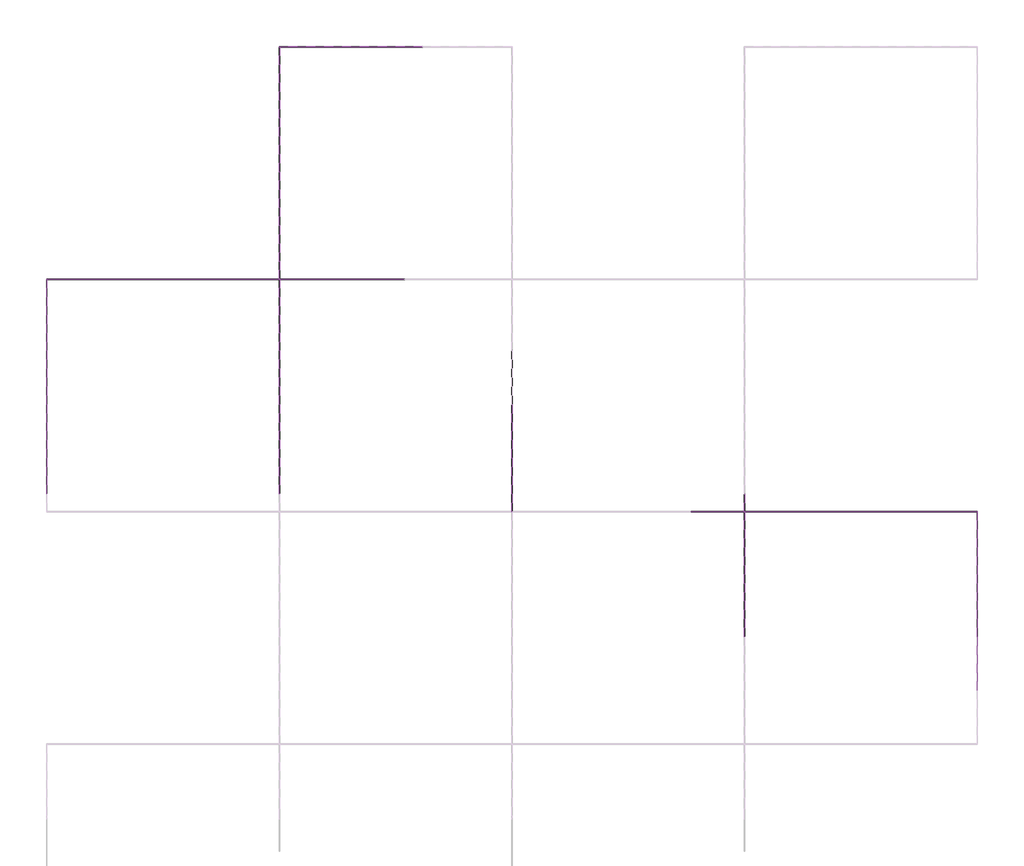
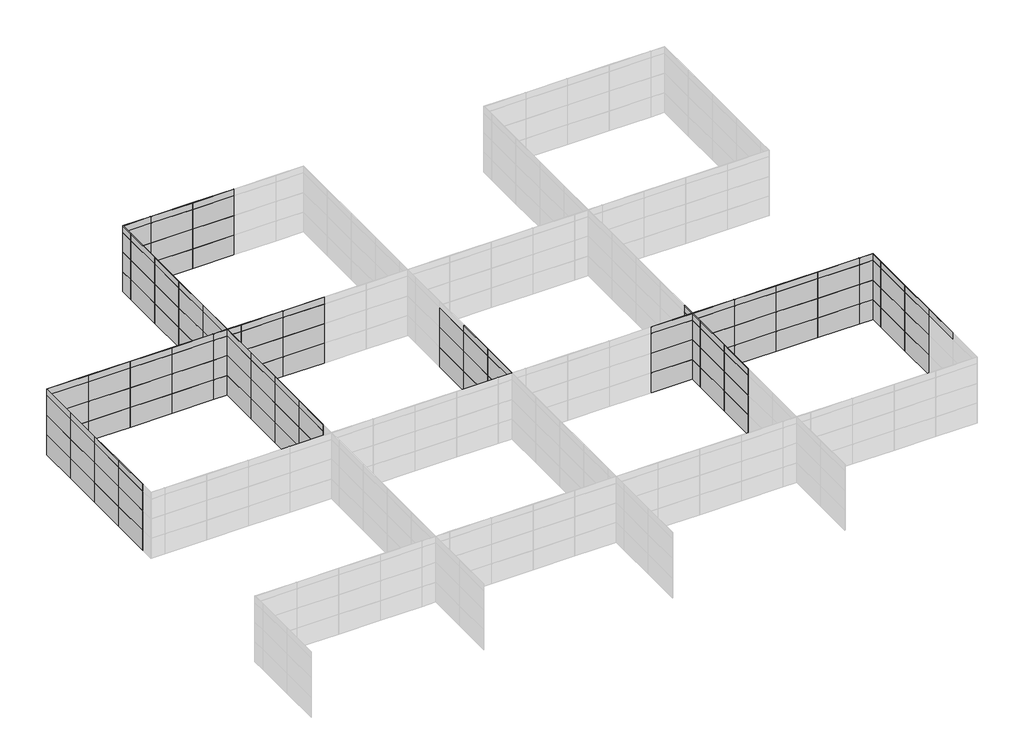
# One storey, part 3 of 4: 160 plates.
"""IFC4 building model written with IfcOpenShell, lengths in millimetres."""

from ifc_helpers import new_model, si_unit, origin, place, context, project, spatial, transform, mapped, element, save
from components import plate_b491c4e8, plate_da1865bf, plate_ce02e459, plate_7b5d22a9, plate_a38b8537, plate_752961ee

model = new_model("IFC4")

# Units and contexts
model_context = context("Model", 3, world=origin())
ifc_project = project(units=[si_unit("LENGTHUNIT", "METRE", prefix="MILLI")], contexts=[model_context])

# Site, building, storey
site = spatial("IfcSite", under=ifc_project)
building = spatial("IfcBuilding", under=site)
storey = spatial("IfcBuildingStorey", under=building, Name="标高 4", Elevation=15000.0)

# Plates
placement = place(None, origin())
plate_shape = plate_b491c4e8(model_context)
element("IfcPlate", 1, ObjectType="系统嵌板 : 玻璃", at=placement, inside=storey, context=model_context, shape_type="MappedRepresentation", body=[
    mapped(plate_shape, transform((30694.7947586, -3748.6313563, 15000.0), x_axis=(0.0, -1.0, 0.0), y_axis=(1.0, 0.0, 0.0), z_axis=(0.0, 0.0, 1.0))),
])
element("IfcPlate", 2, ObjectType="系统嵌板 : 玻璃", at=placement, inside=storey, context=model_context, shape_type="MappedRepresentation", body=[
    mapped(plate_shape, transform((30694.7947586, -6748.6313563, 15000.0), x_axis=(0.0, -1.0, 0.0), y_axis=(1.0, 0.0, 0.0), z_axis=(0.0, 0.0, 1.0))),
])
element("IfcPlate", 3, ObjectType="系统嵌板 : 玻璃", at=placement, inside=storey, context=model_context, shape_type="MappedRepresentation", body=[
    mapped(plate_shape, transform((30694.7947586, -3748.6313563, 16500.0), x_axis=(0.0, -1.0, 0.0), y_axis=(1.0, 0.0, 0.0), z_axis=(0.0, 0.0, 1.0))),
])
element("IfcPlate", 4, ObjectType="系统嵌板 : 玻璃", at=placement, inside=storey, context=model_context, shape_type="MappedRepresentation", body=[
    mapped(plate_shape, transform((30694.7947586, -6748.6313563, 16500.0), x_axis=(0.0, -1.0, 0.0), y_axis=(1.0, 0.0, 0.0), z_axis=(0.0, 0.0, 1.0))),
])
element("IfcPlate", 5, ObjectType="系统嵌板 : 玻璃", at=placement, inside=storey, context=model_context, shape_type="MappedRepresentation", body=[
    mapped(plate_shape, transform((30694.7947586, -3748.6313563, 18000.0), x_axis=(0.0, -1.0, 0.0), y_axis=(1.0, 0.0, 0.0), z_axis=(0.0, 0.0, 1.0))),
])
element("IfcPlate", 6, ObjectType="系统嵌板 : 玻璃", at=placement, inside=storey, context=model_context, shape_type="MappedRepresentation", body=[
    mapped(plate_shape, transform((30694.7947586, -6748.6313563, 18000.0), x_axis=(0.0, -1.0, 0.0), y_axis=(1.0, 0.0, 0.0), z_axis=(0.0, 0.0, 1.0))),
])
element("IfcPlate", 7, ObjectType="系统嵌板 : 玻璃", at=placement, inside=storey, context=model_context, shape_type="MappedRepresentation", body=[
    mapped(plate_shape, transform((-4805.2052414, 24751.3686437, 15000.0), x_axis=(1.0, 0.0, 0.0), y_axis=(0.0, 1.0, 0.0), z_axis=(0.0, 0.0, 1.0))),
])
element("IfcPlate", 8, ObjectType="系统嵌板 : 玻璃", at=placement, inside=storey, context=model_context, shape_type="MappedRepresentation", body=[
    mapped(plate_shape, transform((-1805.2052414, 24751.3686437, 15000.0), x_axis=(1.0, 0.0, 0.0), y_axis=(0.0, 1.0, 0.0), z_axis=(0.0, 0.0, 1.0))),
])
element("IfcPlate", 9, ObjectType="系统嵌板 : 玻璃", at=placement, inside=storey, context=model_context, shape_type="MappedRepresentation", body=[
    mapped(plate_shape, transform((-4805.2052414, 24751.3686437, 16500.0), x_axis=(1.0, 0.0, 0.0), y_axis=(0.0, 1.0, 0.0), z_axis=(0.0, 0.0, 1.0))),
])
element("IfcPlate", 10, ObjectType="系统嵌板 : 玻璃", at=placement, inside=storey, context=model_context, shape_type="MappedRepresentation", body=[
    mapped(plate_shape, transform((-1805.2052414, 24751.3686437, 16500.0), x_axis=(1.0, 0.0, 0.0), y_axis=(0.0, 1.0, 0.0), z_axis=(0.0, 0.0, 1.0))),
])
element("IfcPlate", 11, ObjectType="系统嵌板 : 玻璃", at=placement, inside=storey, context=model_context, shape_type="MappedRepresentation", body=[
    mapped(plate_shape, transform((-4805.2052414, 24751.3686437, 18000.0), x_axis=(1.0, 0.0, 0.0), y_axis=(0.0, 1.0, 0.0), z_axis=(0.0, 0.0, 1.0))),
])
element("IfcPlate", 12, ObjectType="系统嵌板 : 玻璃", at=placement, inside=storey, context=model_context, shape_type="MappedRepresentation", body=[
    mapped(plate_shape, transform((-1805.2052414, 24751.3686437, 18000.0), x_axis=(1.0, 0.0, 0.0), y_axis=(0.0, 1.0, 0.0), z_axis=(0.0, 0.0, 1.0))),
])
element("IfcPlate", 13, ObjectType="系统嵌板 : 玻璃", at=placement, inside=storey, context=model_context, shape_type="MappedRepresentation", body=[
    mapped(plate_shape, transform((-21305.2052414, 1251.3686437, 15000.0), x_axis=(0.0, 1.0, 0.0), y_axis=(-1.0, 0.0, 0.0), z_axis=(0.0, 0.0, 1.0))),
])
element("IfcPlate", 14, ObjectType="系统嵌板 : 玻璃", at=placement, inside=storey, context=model_context, shape_type="MappedRepresentation", body=[
    mapped(plate_shape, transform((-21305.2052414, 4251.3686437, 15000.0), x_axis=(0.0, 1.0, 0.0), y_axis=(-1.0, 0.0, 0.0), z_axis=(0.0, 0.0, 1.0))),
])
element("IfcPlate", 15, ObjectType="系统嵌板 : 玻璃", at=placement, inside=storey, context=model_context, shape_type="MappedRepresentation", body=[
    mapped(plate_shape, transform((-21305.2052414, 7251.3686437, 15000.0), x_axis=(0.0, 1.0, 0.0), y_axis=(-1.0, 0.0, 0.0), z_axis=(0.0, 0.0, 1.0))),
])
element("IfcPlate", 16, ObjectType="系统嵌板 : 玻璃", at=placement, inside=storey, context=model_context, shape_type="MappedRepresentation", body=[
    mapped(plate_shape, transform((-21305.2052414, 10251.3686437, 15000.0), x_axis=(0.0, 1.0, 0.0), y_axis=(-1.0, 0.0, 0.0), z_axis=(0.0, 0.0, 1.0))),
])
element("IfcPlate", 17, ObjectType="系统嵌板 : 玻璃", at=placement, inside=storey, context=model_context, shape_type="MappedRepresentation", body=[
    mapped(plate_shape, transform((-21305.2052414, 1251.3686437, 16500.0), x_axis=(0.0, 1.0, 0.0), y_axis=(-1.0, 0.0, 0.0), z_axis=(0.0, 0.0, 1.0))),
])
element("IfcPlate", 18, ObjectType="系统嵌板 : 玻璃", at=placement, inside=storey, context=model_context, shape_type="MappedRepresentation", body=[
    mapped(plate_shape, transform((-21305.2052414, 4251.3686437, 16500.0), x_axis=(0.0, 1.0, 0.0), y_axis=(-1.0, 0.0, 0.0), z_axis=(0.0, 0.0, 1.0))),
])
element("IfcPlate", 19, ObjectType="系统嵌板 : 玻璃", at=placement, inside=storey, context=model_context, shape_type="MappedRepresentation", body=[
    mapped(plate_shape, transform((-21305.2052414, 7251.3686437, 16500.0), x_axis=(0.0, 1.0, 0.0), y_axis=(-1.0, 0.0, 0.0), z_axis=(0.0, 0.0, 1.0))),
])
element("IfcPlate", 20, ObjectType="系统嵌板 : 玻璃", at=placement, inside=storey, context=model_context, shape_type="MappedRepresentation", body=[
    mapped(plate_shape, transform((-21305.2052414, 10251.3686437, 16500.0), x_axis=(0.0, 1.0, 0.0), y_axis=(-1.0, 0.0, 0.0), z_axis=(0.0, 0.0, 1.0))),
])
element("IfcPlate", 21, ObjectType="系统嵌板 : 玻璃", at=placement, inside=storey, context=model_context, shape_type="MappedRepresentation", body=[
    mapped(plate_shape, transform((-21305.2052414, 1251.3686437, 18000.0), x_axis=(0.0, 1.0, 0.0), y_axis=(-1.0, 0.0, 0.0), z_axis=(0.0, 0.0, 1.0))),
])
element("IfcPlate", 22, ObjectType="系统嵌板 : 玻璃", at=placement, inside=storey, context=model_context, shape_type="MappedRepresentation", body=[
    mapped(plate_shape, transform((-21305.2052414, 4251.3686437, 18000.0), x_axis=(0.0, 1.0, 0.0), y_axis=(-1.0, 0.0, 0.0), z_axis=(0.0, 0.0, 1.0))),
])
element("IfcPlate", 23, ObjectType="系统嵌板 : 玻璃", at=placement, inside=storey, context=model_context, shape_type="MappedRepresentation", body=[
    mapped(plate_shape, transform((-21305.2052414, 7251.3686437, 18000.0), x_axis=(0.0, 1.0, 0.0), y_axis=(-1.0, 0.0, 0.0), z_axis=(0.0, 0.0, 1.0))),
])
element("IfcPlate", 24, ObjectType="系统嵌板 : 玻璃", at=placement, inside=storey, context=model_context, shape_type="MappedRepresentation", body=[
    mapped(plate_shape, transform((-21305.2052414, 10251.3686437, 18000.0), x_axis=(0.0, 1.0, 0.0), y_axis=(-1.0, 0.0, 0.0), z_axis=(0.0, 0.0, 1.0))),
])
element("IfcPlate", 25, ObjectType="系统嵌板 : 玻璃", at=placement, inside=storey, context=model_context, shape_type="MappedRepresentation", body=[
    mapped(plate_shape, transform((-19805.2052414, 11751.3686437, 15000.0), x_axis=(1.0, 0.0, 0.0), y_axis=(0.0, 1.0, 0.0), z_axis=(0.0, 0.0, 1.0))),
])
element("IfcPlate", 26, ObjectType="系统嵌板 : 玻璃", at=placement, inside=storey, context=model_context, shape_type="MappedRepresentation", body=[
    mapped(plate_shape, transform((-16805.2052414, 11751.3686437, 15000.0), x_axis=(1.0, 0.0, 0.0), y_axis=(0.0, 1.0, 0.0), z_axis=(0.0, 0.0, 1.0))),
])
element("IfcPlate", 27, ObjectType="系统嵌板 : 玻璃", at=placement, inside=storey, context=model_context, shape_type="MappedRepresentation", body=[
    mapped(plate_shape, transform((-13805.2052414, 11751.3686437, 15000.0), x_axis=(1.0, 0.0, 0.0), y_axis=(0.0, 1.0, 0.0), z_axis=(0.0, 0.0, 1.0))),
])
element("IfcPlate", 28, ObjectType="系统嵌板 : 玻璃", at=placement, inside=storey, context=model_context, shape_type="MappedRepresentation", body=[
    mapped(plate_shape, transform((-10805.2052414, 11751.3686437, 15000.0), x_axis=(1.0, 0.0, 0.0), y_axis=(0.0, 1.0, 0.0), z_axis=(0.0, 0.0, 1.0))),
])
element("IfcPlate", 29, ObjectType="系统嵌板 : 玻璃", at=placement, inside=storey, context=model_context, shape_type="MappedRepresentation", body=[
    mapped(plate_shape, transform((-19805.2052414, 11751.3686437, 16500.0), x_axis=(1.0, 0.0, 0.0), y_axis=(0.0, 1.0, 0.0), z_axis=(0.0, 0.0, 1.0))),
])
element("IfcPlate", 30, ObjectType="系统嵌板 : 玻璃", at=placement, inside=storey, context=model_context, shape_type="MappedRepresentation", body=[
    mapped(plate_shape, transform((-16805.2052414, 11751.3686437, 16500.0), x_axis=(1.0, 0.0, 0.0), y_axis=(0.0, 1.0, 0.0), z_axis=(0.0, 0.0, 1.0))),
])
element("IfcPlate", 31, ObjectType="系统嵌板 : 玻璃", at=placement, inside=storey, context=model_context, shape_type="MappedRepresentation", body=[
    mapped(plate_shape, transform((-13805.2052414, 11751.3686437, 16500.0), x_axis=(1.0, 0.0, 0.0), y_axis=(0.0, 1.0, 0.0), z_axis=(0.0, 0.0, 1.0))),
])
element("IfcPlate", 32, ObjectType="系统嵌板 : 玻璃", at=placement, inside=storey, context=model_context, shape_type="MappedRepresentation", body=[
    mapped(plate_shape, transform((-10805.2052414, 11751.3686437, 16500.0), x_axis=(1.0, 0.0, 0.0), y_axis=(0.0, 1.0, 0.0), z_axis=(0.0, 0.0, 1.0))),
])
element("IfcPlate", 33, ObjectType="系统嵌板 : 玻璃", at=placement, inside=storey, context=model_context, shape_type="MappedRepresentation", body=[
    mapped(plate_shape, transform((-19805.2052414, 11751.3686437, 18000.0), x_axis=(1.0, 0.0, 0.0), y_axis=(0.0, 1.0, 0.0), z_axis=(0.0, 0.0, 1.0))),
])
element("IfcPlate", 34, ObjectType="系统嵌板 : 玻璃", at=placement, inside=storey, context=model_context, shape_type="MappedRepresentation", body=[
    mapped(plate_shape, transform((-16805.2052414, 11751.3686437, 18000.0), x_axis=(1.0, 0.0, 0.0), y_axis=(0.0, 1.0, 0.0), z_axis=(0.0, 0.0, 1.0))),
])
element("IfcPlate", 35, ObjectType="系统嵌板 : 玻璃", at=placement, inside=storey, context=model_context, shape_type="MappedRepresentation", body=[
    mapped(plate_shape, transform((-13805.2052414, 11751.3686437, 18000.0), x_axis=(1.0, 0.0, 0.0), y_axis=(0.0, 1.0, 0.0), z_axis=(0.0, 0.0, 1.0))),
])
element("IfcPlate", 36, ObjectType="系统嵌板 : 玻璃", at=placement, inside=storey, context=model_context, shape_type="MappedRepresentation", body=[
    mapped(plate_shape, transform((-10805.2052414, 11751.3686437, 18000.0), x_axis=(1.0, 0.0, 0.0), y_axis=(0.0, 1.0, 0.0), z_axis=(0.0, 0.0, 1.0))),
])
element("IfcPlate", 37, ObjectType="系统嵌板 : 玻璃", at=placement, inside=storey, context=model_context, shape_type="MappedRepresentation", body=[
    mapped(plate_shape, transform((-8305.2052414, 13251.3686437, 15000.0), x_axis=(0.0, 1.0, 0.0), y_axis=(-1.0, 0.0, 0.0), z_axis=(0.0, 0.0, 1.0))),
])
element("IfcPlate", 38, ObjectType="系统嵌板 : 玻璃", at=placement, inside=storey, context=model_context, shape_type="MappedRepresentation", body=[
    mapped(plate_shape, transform((-8305.2052414, 16251.3686437, 15000.0), x_axis=(0.0, 1.0, 0.0), y_axis=(-1.0, 0.0, 0.0), z_axis=(0.0, 0.0, 1.0))),
])
element("IfcPlate", 39, ObjectType="系统嵌板 : 玻璃", at=placement, inside=storey, context=model_context, shape_type="MappedRepresentation", body=[
    mapped(plate_shape, transform((-8305.2052414, 19251.3686437, 15000.0), x_axis=(0.0, 1.0, 0.0), y_axis=(-1.0, 0.0, 0.0), z_axis=(0.0, 0.0, 1.0))),
])
element("IfcPlate", 40, ObjectType="系统嵌板 : 玻璃", at=placement, inside=storey, context=model_context, shape_type="MappedRepresentation", body=[
    mapped(plate_shape, transform((-8305.2052414, 22251.3686437, 15000.0), x_axis=(0.0, 1.0, 0.0), y_axis=(-1.0, 0.0, 0.0), z_axis=(0.0, 0.0, 1.0))),
])
element("IfcPlate", 41, ObjectType="系统嵌板 : 玻璃", at=placement, inside=storey, context=model_context, shape_type="MappedRepresentation", body=[
    mapped(plate_shape, transform((-8305.2052414, 13251.3686437, 16500.0), x_axis=(0.0, 1.0, 0.0), y_axis=(-1.0, 0.0, 0.0), z_axis=(0.0, 0.0, 1.0))),
])
element("IfcPlate", 42, ObjectType="系统嵌板 : 玻璃", at=placement, inside=storey, context=model_context, shape_type="MappedRepresentation", body=[
    mapped(plate_shape, transform((-8305.2052414, 16251.3686437, 16500.0), x_axis=(0.0, 1.0, 0.0), y_axis=(-1.0, 0.0, 0.0), z_axis=(0.0, 0.0, 1.0))),
])
element("IfcPlate", 43, ObjectType="系统嵌板 : 玻璃", at=placement, inside=storey, context=model_context, shape_type="MappedRepresentation", body=[
    mapped(plate_shape, transform((-8305.2052414, 19251.3686437, 16500.0), x_axis=(0.0, 1.0, 0.0), y_axis=(-1.0, 0.0, 0.0), z_axis=(0.0, 0.0, 1.0))),
])
element("IfcPlate", 44, ObjectType="系统嵌板 : 玻璃", at=placement, inside=storey, context=model_context, shape_type="MappedRepresentation", body=[
    mapped(plate_shape, transform((-8305.2052414, 22251.3686437, 16500.0), x_axis=(0.0, 1.0, 0.0), y_axis=(-1.0, 0.0, 0.0), z_axis=(0.0, 0.0, 1.0))),
])
element("IfcPlate", 45, ObjectType="系统嵌板 : 玻璃", at=placement, inside=storey, context=model_context, shape_type="MappedRepresentation", body=[
    mapped(plate_shape, transform((-8305.2052414, 13251.3686437, 18000.0), x_axis=(0.0, 1.0, 0.0), y_axis=(-1.0, 0.0, 0.0), z_axis=(0.0, 0.0, 1.0))),
])
element("IfcPlate", 46, ObjectType="系统嵌板 : 玻璃", at=placement, inside=storey, context=model_context, shape_type="MappedRepresentation", body=[
    mapped(plate_shape, transform((-8305.2052414, 16251.3686437, 18000.0), x_axis=(0.0, 1.0, 0.0), y_axis=(-1.0, 0.0, 0.0), z_axis=(0.0, 0.0, 1.0))),
])
element("IfcPlate", 47, ObjectType="系统嵌板 : 玻璃", at=placement, inside=storey, context=model_context, shape_type="MappedRepresentation", body=[
    mapped(plate_shape, transform((-8305.2052414, 19251.3686437, 18000.0), x_axis=(0.0, 1.0, 0.0), y_axis=(-1.0, 0.0, 0.0), z_axis=(0.0, 0.0, 1.0))),
])
element("IfcPlate", 48, ObjectType="系统嵌板 : 玻璃", at=placement, inside=storey, context=model_context, shape_type="MappedRepresentation", body=[
    mapped(plate_shape, transform((-8305.2052414, 22251.3686437, 18000.0), x_axis=(0.0, 1.0, 0.0), y_axis=(-1.0, 0.0, 0.0), z_axis=(0.0, 0.0, 1.0))),
])
element("IfcPlate", 49, ObjectType="系统嵌板 : 玻璃", at=placement, inside=storey, context=model_context, shape_type="MappedRepresentation", body=[
    mapped(plate_shape, transform((4694.7947586, 251.3686437, 15000.0), x_axis=(0.0, 1.0, 0.0), y_axis=(-1.0, 0.0, 0.0), z_axis=(0.0, 0.0, 1.0))),
])
element("IfcPlate", 50, ObjectType="系统嵌板 : 玻璃", at=placement, inside=storey, context=model_context, shape_type="MappedRepresentation", body=[
    mapped(plate_shape, transform((4694.7947586, 3251.3686437, 15000.0), x_axis=(0.0, 1.0, 0.0), y_axis=(-1.0, 0.0, 0.0), z_axis=(0.0, 0.0, 1.0))),
])
element("IfcPlate", 51, ObjectType="系统嵌板 : 玻璃", at=placement, inside=storey, context=model_context, shape_type="MappedRepresentation", body=[
    mapped(plate_shape, transform((4694.7947586, 6251.3686437, 15000.0), x_axis=(0.0, 1.0, 0.0), y_axis=(-1.0, 0.0, 0.0), z_axis=(0.0, 0.0, 1.0))),
])
element("IfcPlate", 52, ObjectType="系统嵌板 : 玻璃", at=placement, inside=storey, context=model_context, shape_type="MappedRepresentation", body=[
    mapped(plate_shape, transform((4694.7947586, 251.3686437, 16500.0), x_axis=(0.0, 1.0, 0.0), y_axis=(-1.0, 0.0, 0.0), z_axis=(0.0, 0.0, 1.0))),
])
element("IfcPlate", 53, ObjectType="系统嵌板 : 玻璃", at=placement, inside=storey, context=model_context, shape_type="MappedRepresentation", body=[
    mapped(plate_shape, transform((4694.7947586, 3251.3686437, 16500.0), x_axis=(0.0, 1.0, 0.0), y_axis=(-1.0, 0.0, 0.0), z_axis=(0.0, 0.0, 1.0))),
])
element("IfcPlate", 54, ObjectType="系统嵌板 : 玻璃", at=placement, inside=storey, context=model_context, shape_type="MappedRepresentation", body=[
    mapped(plate_shape, transform((4694.7947586, 6251.3686437, 16500.0), x_axis=(0.0, 1.0, 0.0), y_axis=(-1.0, 0.0, 0.0), z_axis=(0.0, 0.0, 1.0))),
])
element("IfcPlate", 55, ObjectType="系统嵌板 : 玻璃", at=placement, inside=storey, context=model_context, shape_type="MappedRepresentation", body=[
    mapped(plate_shape, transform((4694.7947586, 251.3686437, 18000.0), x_axis=(0.0, 1.0, 0.0), y_axis=(-1.0, 0.0, 0.0), z_axis=(0.0, 0.0, 1.0))),
])
element("IfcPlate", 56, ObjectType="系统嵌板 : 玻璃", at=placement, inside=storey, context=model_context, shape_type="MappedRepresentation", body=[
    mapped(plate_shape, transform((4694.7947586, 3251.3686437, 18000.0), x_axis=(0.0, 1.0, 0.0), y_axis=(-1.0, 0.0, 0.0), z_axis=(0.0, 0.0, 1.0))),
])
element("IfcPlate", 57, ObjectType="系统嵌板 : 玻璃", at=placement, inside=storey, context=model_context, shape_type="MappedRepresentation", body=[
    mapped(plate_shape, transform((4694.7947586, 6251.3686437, 18000.0), x_axis=(0.0, 1.0, 0.0), y_axis=(-1.0, 0.0, 0.0), z_axis=(0.0, 0.0, 1.0))),
])
element("IfcPlate", 58, ObjectType="系统嵌板 : 玻璃", at=placement, inside=storey, context=model_context, shape_type="MappedRepresentation", body=[
    mapped(plate_shape, transform((-2805.2052414, 11751.3686437, 15000.0), x_axis=(-1.0, 0.0, 0.0), y_axis=(0.0, -1.0, 0.0), z_axis=(0.0, 0.0, 1.0))),
])
element("IfcPlate", 59, ObjectType="系统嵌板 : 玻璃", at=placement, inside=storey, context=model_context, shape_type="MappedRepresentation", body=[
    mapped(plate_shape, transform((-5805.2052414, 11751.3686437, 15000.0), x_axis=(-1.0, 0.0, 0.0), y_axis=(0.0, -1.0, 0.0), z_axis=(0.0, 0.0, 1.0))),
])
element("IfcPlate", 60, ObjectType="系统嵌板 : 玻璃", at=placement, inside=storey, context=model_context, shape_type="MappedRepresentation", body=[
    mapped(plate_shape, transform((-2805.2052414, 11751.3686437, 16500.0), x_axis=(-1.0, 0.0, 0.0), y_axis=(0.0, -1.0, 0.0), z_axis=(0.0, 0.0, 1.0))),
])
element("IfcPlate", 61, ObjectType="系统嵌板 : 玻璃", at=placement, inside=storey, context=model_context, shape_type="MappedRepresentation", body=[
    mapped(plate_shape, transform((-5805.2052414, 11751.3686437, 16500.0), x_axis=(-1.0, 0.0, 0.0), y_axis=(0.0, -1.0, 0.0), z_axis=(0.0, 0.0, 1.0))),
])
element("IfcPlate", 62, ObjectType="系统嵌板 : 玻璃", at=placement, inside=storey, context=model_context, shape_type="MappedRepresentation", body=[
    mapped(plate_shape, transform((-2805.2052414, 11751.3686437, 18000.0), x_axis=(-1.0, 0.0, 0.0), y_axis=(0.0, -1.0, 0.0), z_axis=(0.0, 0.0, 1.0))),
])
element("IfcPlate", 63, ObjectType="系统嵌板 : 玻璃", at=placement, inside=storey, context=model_context, shape_type="MappedRepresentation", body=[
    mapped(plate_shape, transform((-5805.2052414, 11751.3686437, 18000.0), x_axis=(-1.0, 0.0, 0.0), y_axis=(0.0, -1.0, 0.0), z_axis=(0.0, 0.0, 1.0))),
])
element("IfcPlate", 64, ObjectType="系统嵌板 : 玻璃", at=placement, inside=storey, context=model_context, shape_type="MappedRepresentation", body=[
    mapped(plate_shape, transform((-8305.2052414, 10251.3686437, 15000.0), x_axis=(0.0, -1.0, 0.0), y_axis=(1.0, 0.0, 0.0), z_axis=(0.0, 0.0, 1.0))),
])
element("IfcPlate", 65, ObjectType="系统嵌板 : 玻璃", at=placement, inside=storey, context=model_context, shape_type="MappedRepresentation", body=[
    mapped(plate_shape, transform((-8305.2052414, 7251.3686437, 15000.0), x_axis=(0.0, -1.0, 0.0), y_axis=(1.0, 0.0, 0.0), z_axis=(0.0, 0.0, 1.0))),
])
element("IfcPlate", 66, ObjectType="系统嵌板 : 玻璃", at=placement, inside=storey, context=model_context, shape_type="MappedRepresentation", body=[
    mapped(plate_shape, transform((-8305.2052414, 4251.3686437, 15000.0), x_axis=(0.0, -1.0, 0.0), y_axis=(1.0, 0.0, 0.0), z_axis=(0.0, 0.0, 1.0))),
])
element("IfcPlate", 67, ObjectType="系统嵌板 : 玻璃", at=placement, inside=storey, context=model_context, shape_type="MappedRepresentation", body=[
    mapped(plate_shape, transform((-8305.2052414, 1251.3686437, 15000.0), x_axis=(0.0, -1.0, 0.0), y_axis=(1.0, 0.0, 0.0), z_axis=(0.0, 0.0, 1.0))),
])
element("IfcPlate", 68, ObjectType="系统嵌板 : 玻璃", at=placement, inside=storey, context=model_context, shape_type="MappedRepresentation", body=[
    mapped(plate_shape, transform((-8305.2052414, 10251.3686437, 16500.0), x_axis=(0.0, -1.0, 0.0), y_axis=(1.0, 0.0, 0.0), z_axis=(0.0, 0.0, 1.0))),
])
element("IfcPlate", 69, ObjectType="系统嵌板 : 玻璃", at=placement, inside=storey, context=model_context, shape_type="MappedRepresentation", body=[
    mapped(plate_shape, transform((-8305.2052414, 7251.3686437, 16500.0), x_axis=(0.0, -1.0, 0.0), y_axis=(1.0, 0.0, 0.0), z_axis=(0.0, 0.0, 1.0))),
])
element("IfcPlate", 70, ObjectType="系统嵌板 : 玻璃", at=placement, inside=storey, context=model_context, shape_type="MappedRepresentation", body=[
    mapped(plate_shape, transform((-8305.2052414, 4251.3686437, 16500.0), x_axis=(0.0, -1.0, 0.0), y_axis=(1.0, 0.0, 0.0), z_axis=(0.0, 0.0, 1.0))),
])
element("IfcPlate", 71, ObjectType="系统嵌板 : 玻璃", at=placement, inside=storey, context=model_context, shape_type="MappedRepresentation", body=[
    mapped(plate_shape, transform((-8305.2052414, 1251.3686437, 16500.0), x_axis=(0.0, -1.0, 0.0), y_axis=(1.0, 0.0, 0.0), z_axis=(0.0, 0.0, 1.0))),
])
element("IfcPlate", 72, ObjectType="系统嵌板 : 玻璃", at=placement, inside=storey, context=model_context, shape_type="MappedRepresentation", body=[
    mapped(plate_shape, transform((-8305.2052414, 10251.3686437, 18000.0), x_axis=(0.0, -1.0, 0.0), y_axis=(1.0, 0.0, 0.0), z_axis=(0.0, 0.0, 1.0))),
])
element("IfcPlate", 73, ObjectType="系统嵌板 : 玻璃", at=placement, inside=storey, context=model_context, shape_type="MappedRepresentation", body=[
    mapped(plate_shape, transform((-8305.2052414, 7251.3686437, 18000.0), x_axis=(0.0, -1.0, 0.0), y_axis=(1.0, 0.0, 0.0), z_axis=(0.0, 0.0, 1.0))),
])
element("IfcPlate", 74, ObjectType="系统嵌板 : 玻璃", at=placement, inside=storey, context=model_context, shape_type="MappedRepresentation", body=[
    mapped(plate_shape, transform((-8305.2052414, 4251.3686437, 18000.0), x_axis=(0.0, -1.0, 0.0), y_axis=(1.0, 0.0, 0.0), z_axis=(0.0, 0.0, 1.0))),
])
element("IfcPlate", 75, ObjectType="系统嵌板 : 玻璃", at=placement, inside=storey, context=model_context, shape_type="MappedRepresentation", body=[
    mapped(plate_shape, transform((-8305.2052414, 1251.3686437, 18000.0), x_axis=(0.0, -1.0, 0.0), y_axis=(1.0, 0.0, 0.0), z_axis=(0.0, 0.0, 1.0))),
])
element("IfcPlate", 76, ObjectType="系统嵌板 : 玻璃", at=placement, inside=storey, context=model_context, shape_type="MappedRepresentation", body=[
    mapped(plate_shape, transform((17694.7947586, -6748.6313563, 15000.0), x_axis=(0.0, 1.0, 0.0), y_axis=(-1.0, 0.0, 0.0), z_axis=(0.0, 0.0, 1.0))),
])
element("IfcPlate", 77, ObjectType="系统嵌板 : 玻璃", at=placement, inside=storey, context=model_context, shape_type="MappedRepresentation", body=[
    mapped(plate_shape, transform((17694.7947586, -3748.6313563, 15000.0), x_axis=(0.0, 1.0, 0.0), y_axis=(-1.0, 0.0, 0.0), z_axis=(0.0, 0.0, 1.0))),
])
element("IfcPlate", 78, ObjectType="系统嵌板 : 玻璃", at=placement, inside=storey, context=model_context, shape_type="MappedRepresentation", body=[
    mapped(plate_shape, transform((17694.7947586, -6748.6313563, 16500.0), x_axis=(0.0, 1.0, 0.0), y_axis=(-1.0, 0.0, 0.0), z_axis=(0.0, 0.0, 1.0))),
])
element("IfcPlate", 79, ObjectType="系统嵌板 : 玻璃", at=placement, inside=storey, context=model_context, shape_type="MappedRepresentation", body=[
    mapped(plate_shape, transform((17694.7947586, -3748.6313563, 16500.0), x_axis=(0.0, 1.0, 0.0), y_axis=(-1.0, 0.0, 0.0), z_axis=(0.0, 0.0, 1.0))),
])
element("IfcPlate", 80, ObjectType="系统嵌板 : 玻璃", at=placement, inside=storey, context=model_context, shape_type="MappedRepresentation", body=[
    mapped(plate_shape, transform((17694.7947586, -6748.6313563, 18000.0), x_axis=(0.0, 1.0, 0.0), y_axis=(-1.0, 0.0, 0.0), z_axis=(0.0, 0.0, 1.0))),
])
element("IfcPlate", 81, ObjectType="系统嵌板 : 玻璃", at=placement, inside=storey, context=model_context, shape_type="MappedRepresentation", body=[
    mapped(plate_shape, transform((17694.7947586, -3748.6313563, 18000.0), x_axis=(0.0, 1.0, 0.0), y_axis=(-1.0, 0.0, 0.0), z_axis=(0.0, 0.0, 1.0))),
])
element("IfcPlate", 82, ObjectType="系统嵌板 : 玻璃", at=placement, inside=storey, context=model_context, shape_type="MappedRepresentation", body=[
    mapped(plate_shape, transform((16194.7947586, -1248.6313563, 15000.0), x_axis=(-1.0, 0.0, 0.0), y_axis=(0.0, -1.0, 0.0), z_axis=(0.0, 0.0, 1.0))),
])
element("IfcPlate", 83, ObjectType="系统嵌板 : 玻璃", at=placement, inside=storey, context=model_context, shape_type="MappedRepresentation", body=[
    mapped(plate_shape, transform((16194.7947586, -1248.6313563, 16500.0), x_axis=(-1.0, 0.0, 0.0), y_axis=(0.0, -1.0, 0.0), z_axis=(0.0, 0.0, 1.0))),
])
element("IfcPlate", 84, ObjectType="系统嵌板 : 玻璃", at=placement, inside=storey, context=model_context, shape_type="MappedRepresentation", body=[
    mapped(plate_shape, transform((16194.7947586, -1248.6313563, 18000.0), x_axis=(-1.0, 0.0, 0.0), y_axis=(0.0, -1.0, 0.0), z_axis=(0.0, 0.0, 1.0))),
])
element("IfcPlate", 85, ObjectType="系统嵌板 : 玻璃", at=placement, inside=storey, context=model_context, shape_type="MappedRepresentation", body=[
    mapped(plate_shape, transform((19194.7947586, -1248.6313563, 15000.0), x_axis=(1.0, 0.0, 0.0), y_axis=(0.0, 1.0, 0.0), z_axis=(0.0, 0.0, 1.0))),
])
element("IfcPlate", 86, ObjectType="系统嵌板 : 玻璃", at=placement, inside=storey, context=model_context, shape_type="MappedRepresentation", body=[
    mapped(plate_shape, transform((22194.7947586, -1248.6313563, 15000.0), x_axis=(1.0, 0.0, 0.0), y_axis=(0.0, 1.0, 0.0), z_axis=(0.0, 0.0, 1.0))),
])
element("IfcPlate", 87, ObjectType="系统嵌板 : 玻璃", at=placement, inside=storey, context=model_context, shape_type="MappedRepresentation", body=[
    mapped(plate_shape, transform((25194.7947586, -1248.6313563, 15000.0), x_axis=(1.0, 0.0, 0.0), y_axis=(0.0, 1.0, 0.0), z_axis=(0.0, 0.0, 1.0))),
])
element("IfcPlate", 88, ObjectType="系统嵌板 : 玻璃", at=placement, inside=storey, context=model_context, shape_type="MappedRepresentation", body=[
    mapped(plate_shape, transform((28194.7947586, -1248.6313563, 15000.0), x_axis=(1.0, 0.0, 0.0), y_axis=(0.0, 1.0, 0.0), z_axis=(0.0, 0.0, 1.0))),
])
element("IfcPlate", 89, ObjectType="系统嵌板 : 玻璃", at=placement, inside=storey, context=model_context, shape_type="MappedRepresentation", body=[
    mapped(plate_shape, transform((19194.7947586, -1248.6313563, 16500.0), x_axis=(1.0, 0.0, 0.0), y_axis=(0.0, 1.0, 0.0), z_axis=(0.0, 0.0, 1.0))),
])
element("IfcPlate", 90, ObjectType="系统嵌板 : 玻璃", at=placement, inside=storey, context=model_context, shape_type="MappedRepresentation", body=[
    mapped(plate_shape, transform((22194.7947586, -1248.6313563, 16500.0), x_axis=(1.0, 0.0, 0.0), y_axis=(0.0, 1.0, 0.0), z_axis=(0.0, 0.0, 1.0))),
])
element("IfcPlate", 91, ObjectType="系统嵌板 : 玻璃", at=placement, inside=storey, context=model_context, shape_type="MappedRepresentation", body=[
    mapped(plate_shape, transform((25194.7947586, -1248.6313563, 16500.0), x_axis=(1.0, 0.0, 0.0), y_axis=(0.0, 1.0, 0.0), z_axis=(0.0, 0.0, 1.0))),
])
element("IfcPlate", 92, ObjectType="系统嵌板 : 玻璃", at=placement, inside=storey, context=model_context, shape_type="MappedRepresentation", body=[
    mapped(plate_shape, transform((28194.7947586, -1248.6313563, 16500.0), x_axis=(1.0, 0.0, 0.0), y_axis=(0.0, 1.0, 0.0), z_axis=(0.0, 0.0, 1.0))),
])
element("IfcPlate", 93, ObjectType="系统嵌板 : 玻璃", at=placement, inside=storey, context=model_context, shape_type="MappedRepresentation", body=[
    mapped(plate_shape, transform((19194.7947586, -1248.6313563, 18000.0), x_axis=(1.0, 0.0, 0.0), y_axis=(0.0, 1.0, 0.0), z_axis=(0.0, 0.0, 1.0))),
])
element("IfcPlate", 94, ObjectType="系统嵌板 : 玻璃", at=placement, inside=storey, context=model_context, shape_type="MappedRepresentation", body=[
    mapped(plate_shape, transform((22194.7947586, -1248.6313563, 18000.0), x_axis=(1.0, 0.0, 0.0), y_axis=(0.0, 1.0, 0.0), z_axis=(0.0, 0.0, 1.0))),
])
element("IfcPlate", 95, ObjectType="系统嵌板 : 玻璃", at=placement, inside=storey, context=model_context, shape_type="MappedRepresentation", body=[
    mapped(plate_shape, transform((25194.7947586, -1248.6313563, 18000.0), x_axis=(1.0, 0.0, 0.0), y_axis=(0.0, 1.0, 0.0), z_axis=(0.0, 0.0, 1.0))),
])
element("IfcPlate", 96, ObjectType="系统嵌板 : 玻璃", at=placement, inside=storey, context=model_context, shape_type="MappedRepresentation", body=[
    mapped(plate_shape, transform((28194.7947586, -1248.6313563, 18000.0), x_axis=(1.0, 0.0, 0.0), y_axis=(0.0, 1.0, 0.0), z_axis=(0.0, 0.0, 1.0))),
])
plate_2_shape = plate_da1865bf(model_context)
element("IfcPlate", 97, ObjectType="系统嵌板 : 玻璃", at=placement, inside=storey, context=model_context, shape_type="MappedRepresentation", body=[
    mapped(plate_2_shape, transform((30694.7947586, -1748.6313563, 15000.0), x_axis=(0.0, -1.0, 0.0), y_axis=(1.0, 0.0, 0.0), z_axis=(0.0, 0.0, 1.0))),
])
element("IfcPlate", 98, ObjectType="系统嵌板 : 玻璃", at=placement, inside=storey, context=model_context, shape_type="MappedRepresentation", body=[
    mapped(plate_2_shape, transform((30694.7947586, -1748.6313563, 16500.0), x_axis=(0.0, -1.0, 0.0), y_axis=(1.0, 0.0, 0.0), z_axis=(0.0, 0.0, 1.0))),
])
element("IfcPlate", 99, ObjectType="系统嵌板 : 玻璃", at=placement, inside=storey, context=model_context, shape_type="MappedRepresentation", body=[
    mapped(plate_2_shape, transform((30694.7947586, -1748.6313563, 18000.0), x_axis=(0.0, -1.0, 0.0), y_axis=(1.0, 0.0, 0.0), z_axis=(0.0, 0.0, 1.0))),
])
element("IfcPlate", 100, ObjectType="系统嵌板 : 玻璃", at=placement, inside=storey, context=model_context, shape_type="MappedRepresentation", body=[
    mapped(plate_2_shape, transform((-8805.2052414, 11751.3686437, 15000.0), x_axis=(1.0, 0.0, 0.0), y_axis=(0.0, 1.0, 0.0), z_axis=(0.0, 0.0, 1.0))),
])
element("IfcPlate", 101, ObjectType="系统嵌板 : 玻璃", at=placement, inside=storey, context=model_context, shape_type="MappedRepresentation", body=[
    mapped(plate_2_shape, transform((-8805.2052414, 11751.3686437, 16500.0), x_axis=(1.0, 0.0, 0.0), y_axis=(0.0, 1.0, 0.0), z_axis=(0.0, 0.0, 1.0))),
])
element("IfcPlate", 102, ObjectType="系统嵌板 : 玻璃", at=placement, inside=storey, context=model_context, shape_type="MappedRepresentation", body=[
    mapped(plate_2_shape, transform((-8805.2052414, 11751.3686437, 18000.0), x_axis=(1.0, 0.0, 0.0), y_axis=(0.0, 1.0, 0.0), z_axis=(0.0, 0.0, 1.0))),
])
element("IfcPlate", 103, ObjectType="系统嵌板 : 玻璃", at=placement, inside=storey, context=model_context, shape_type="MappedRepresentation", body=[
    mapped(plate_2_shape, transform((-8305.2052414, 24251.3686437, 15000.0), x_axis=(0.0, 1.0, 0.0), y_axis=(-1.0, 0.0, 0.0), z_axis=(0.0, 0.0, 1.0))),
])
element("IfcPlate", 104, ObjectType="系统嵌板 : 玻璃", at=placement, inside=storey, context=model_context, shape_type="MappedRepresentation", body=[
    mapped(plate_2_shape, transform((-8305.2052414, 24251.3686437, 16500.0), x_axis=(0.0, 1.0, 0.0), y_axis=(-1.0, 0.0, 0.0), z_axis=(0.0, 0.0, 1.0))),
])
element("IfcPlate", 105, ObjectType="系统嵌板 : 玻璃", at=placement, inside=storey, context=model_context, shape_type="MappedRepresentation", body=[
    mapped(plate_2_shape, transform((-8305.2052414, 24251.3686437, 18000.0), x_axis=(0.0, 1.0, 0.0), y_axis=(-1.0, 0.0, 0.0), z_axis=(0.0, 0.0, 1.0))),
])
element("IfcPlate", 106, ObjectType="系统嵌板 : 玻璃", at=placement, inside=storey, context=model_context, shape_type="MappedRepresentation", body=[
    mapped(plate_2_shape, transform((-7805.2052414, 11751.3686437, 15000.0), x_axis=(-1.0, 0.0, 0.0), y_axis=(0.0, -1.0, 0.0), z_axis=(0.0, 0.0, 1.0))),
])
element("IfcPlate", 107, ObjectType="系统嵌板 : 玻璃", at=placement, inside=storey, context=model_context, shape_type="MappedRepresentation", body=[
    mapped(plate_2_shape, transform((-7805.2052414, 11751.3686437, 16500.0), x_axis=(-1.0, 0.0, 0.0), y_axis=(0.0, -1.0, 0.0), z_axis=(0.0, 0.0, 1.0))),
])
element("IfcPlate", 108, ObjectType="系统嵌板 : 玻璃", at=placement, inside=storey, context=model_context, shape_type="MappedRepresentation", body=[
    mapped(plate_2_shape, transform((-7805.2052414, 11751.3686437, 18000.0), x_axis=(-1.0, 0.0, 0.0), y_axis=(0.0, -1.0, 0.0), z_axis=(0.0, 0.0, 1.0))),
])
element("IfcPlate", 109, ObjectType="系统嵌板 : 玻璃", at=placement, inside=storey, context=model_context, shape_type="MappedRepresentation", body=[
    mapped(plate_2_shape, transform((17694.7947586, -1748.6313563, 15000.0), x_axis=(0.0, 1.0, 0.0), y_axis=(-1.0, 0.0, 0.0), z_axis=(0.0, 0.0, 1.0))),
])
element("IfcPlate", 110, ObjectType="系统嵌板 : 玻璃", at=placement, inside=storey, context=model_context, shape_type="MappedRepresentation", body=[
    mapped(plate_2_shape, transform((17694.7947586, -1748.6313563, 16500.0), x_axis=(0.0, 1.0, 0.0), y_axis=(-1.0, 0.0, 0.0), z_axis=(0.0, 0.0, 1.0))),
])
element("IfcPlate", 111, ObjectType="系统嵌板 : 玻璃", at=placement, inside=storey, context=model_context, shape_type="MappedRepresentation", body=[
    mapped(plate_2_shape, transform((17694.7947586, -1748.6313563, 18000.0), x_axis=(0.0, 1.0, 0.0), y_axis=(-1.0, 0.0, 0.0), z_axis=(0.0, 0.0, 1.0))),
])
element("IfcPlate", 112, ObjectType="系统嵌板 : 玻璃", at=placement, inside=storey, context=model_context, shape_type="MappedRepresentation", body=[
    mapped(plate_2_shape, transform((17694.7947586, -748.6313563, 15000.0), x_axis=(0.0, -1.0, 0.0), y_axis=(1.0, 0.0, 0.0), z_axis=(0.0, 0.0, 1.0))),
])
element("IfcPlate", 113, ObjectType="系统嵌板 : 玻璃", at=placement, inside=storey, context=model_context, shape_type="MappedRepresentation", body=[
    mapped(plate_2_shape, transform((17694.7947586, -748.6313563, 16500.0), x_axis=(0.0, -1.0, 0.0), y_axis=(1.0, 0.0, 0.0), z_axis=(0.0, 0.0, 1.0))),
])
element("IfcPlate", 114, ObjectType="系统嵌板 : 玻璃", at=placement, inside=storey, context=model_context, shape_type="MappedRepresentation", body=[
    mapped(plate_2_shape, transform((17694.7947586, -748.6313563, 18000.0), x_axis=(0.0, -1.0, 0.0), y_axis=(1.0, 0.0, 0.0), z_axis=(0.0, 0.0, 1.0))),
])
element("IfcPlate", 115, ObjectType="系统嵌板 : 玻璃", at=placement, inside=storey, context=model_context, shape_type="MappedRepresentation", body=[
    mapped(plate_2_shape, transform((30194.7947586, -1248.6313563, 15000.0), x_axis=(1.0, 0.0, 0.0), y_axis=(0.0, 1.0, 0.0), z_axis=(0.0, 0.0, 1.0))),
])
element("IfcPlate", 116, ObjectType="系统嵌板 : 玻璃", at=placement, inside=storey, context=model_context, shape_type="MappedRepresentation", body=[
    mapped(plate_2_shape, transform((30194.7947586, -1248.6313563, 16500.0), x_axis=(1.0, 0.0, 0.0), y_axis=(0.0, 1.0, 0.0), z_axis=(0.0, 0.0, 1.0))),
])
element("IfcPlate", 117, ObjectType="系统嵌板 : 玻璃", at=placement, inside=storey, context=model_context, shape_type="MappedRepresentation", body=[
    mapped(plate_2_shape, transform((30194.7947586, -1248.6313563, 18000.0), x_axis=(1.0, 0.0, 0.0), y_axis=(0.0, 1.0, 0.0), z_axis=(0.0, 0.0, 1.0))),
])
plate_3_shape = plate_ce02e459(model_context)
element("IfcPlate", 118, ObjectType="系统嵌板 : 玻璃", at=placement, inside=storey, context=model_context, shape_type="MappedRepresentation", body=[
    mapped(plate_3_shape, transform((30694.7947586, -3748.6313563, 19500.0), x_axis=(0.0, -1.0, 0.0), y_axis=(1.0, 0.0, 0.0), z_axis=(0.0, 0.0, 1.0))),
])
element("IfcPlate", 119, ObjectType="系统嵌板 : 玻璃", at=placement, inside=storey, context=model_context, shape_type="MappedRepresentation", body=[
    mapped(plate_3_shape, transform((30694.7947586, -6748.6313563, 19500.0), x_axis=(0.0, -1.0, 0.0), y_axis=(1.0, 0.0, 0.0), z_axis=(0.0, 0.0, 1.0))),
])
element("IfcPlate", 120, ObjectType="系统嵌板 : 玻璃", at=placement, inside=storey, context=model_context, shape_type="MappedRepresentation", body=[
    mapped(plate_3_shape, transform((30694.7947586, -9748.6313563, 19500.0), x_axis=(0.0, -1.0, 0.0), y_axis=(1.0, 0.0, 0.0), z_axis=(0.0, 0.0, 1.0))),
])
element("IfcPlate", 121, ObjectType="系统嵌板 : 玻璃", at=placement, inside=storey, context=model_context, shape_type="MappedRepresentation", body=[
    mapped(plate_3_shape, transform((-4805.2052414, 24751.3686437, 19500.0), x_axis=(1.0, 0.0, 0.0), y_axis=(0.0, 1.0, 0.0), z_axis=(0.0, 0.0, 1.0))),
])
element("IfcPlate", 122, ObjectType="系统嵌板 : 玻璃", at=placement, inside=storey, context=model_context, shape_type="MappedRepresentation", body=[
    mapped(plate_3_shape, transform((-1805.2052414, 24751.3686437, 19500.0), x_axis=(1.0, 0.0, 0.0), y_axis=(0.0, 1.0, 0.0), z_axis=(0.0, 0.0, 1.0))),
])
element("IfcPlate", 123, ObjectType="系统嵌板 : 玻璃", at=placement, inside=storey, context=model_context, shape_type="MappedRepresentation", body=[
    mapped(plate_3_shape, transform((-21305.2052414, 1251.3686437, 19500.0), x_axis=(0.0, 1.0, 0.0), y_axis=(-1.0, 0.0, 0.0), z_axis=(0.0, 0.0, 1.0))),
])
element("IfcPlate", 124, ObjectType="系统嵌板 : 玻璃", at=placement, inside=storey, context=model_context, shape_type="MappedRepresentation", body=[
    mapped(plate_3_shape, transform((-21305.2052414, 4251.3686437, 19500.0), x_axis=(0.0, 1.0, 0.0), y_axis=(-1.0, 0.0, 0.0), z_axis=(0.0, 0.0, 1.0))),
])
element("IfcPlate", 125, ObjectType="系统嵌板 : 玻璃", at=placement, inside=storey, context=model_context, shape_type="MappedRepresentation", body=[
    mapped(plate_3_shape, transform((-21305.2052414, 7251.3686437, 19500.0), x_axis=(0.0, 1.0, 0.0), y_axis=(-1.0, 0.0, 0.0), z_axis=(0.0, 0.0, 1.0))),
])
element("IfcPlate", 126, ObjectType="系统嵌板 : 玻璃", at=placement, inside=storey, context=model_context, shape_type="MappedRepresentation", body=[
    mapped(plate_3_shape, transform((-21305.2052414, 10251.3686437, 19500.0), x_axis=(0.0, 1.0, 0.0), y_axis=(-1.0, 0.0, 0.0), z_axis=(0.0, 0.0, 1.0))),
])
element("IfcPlate", 127, ObjectType="系统嵌板 : 玻璃", at=placement, inside=storey, context=model_context, shape_type="MappedRepresentation", body=[
    mapped(plate_3_shape, transform((-19805.2052414, 11751.3686437, 19500.0), x_axis=(1.0, 0.0, 0.0), y_axis=(0.0, 1.0, 0.0), z_axis=(0.0, 0.0, 1.0))),
])
element("IfcPlate", 128, ObjectType="系统嵌板 : 玻璃", at=placement, inside=storey, context=model_context, shape_type="MappedRepresentation", body=[
    mapped(plate_3_shape, transform((-16805.2052414, 11751.3686437, 19500.0), x_axis=(1.0, 0.0, 0.0), y_axis=(0.0, 1.0, 0.0), z_axis=(0.0, 0.0, 1.0))),
])
element("IfcPlate", 129, ObjectType="系统嵌板 : 玻璃", at=placement, inside=storey, context=model_context, shape_type="MappedRepresentation", body=[
    mapped(plate_3_shape, transform((-13805.2052414, 11751.3686437, 19500.0), x_axis=(1.0, 0.0, 0.0), y_axis=(0.0, 1.0, 0.0), z_axis=(0.0, 0.0, 1.0))),
])
element("IfcPlate", 130, ObjectType="系统嵌板 : 玻璃", at=placement, inside=storey, context=model_context, shape_type="MappedRepresentation", body=[
    mapped(plate_3_shape, transform((-10805.2052414, 11751.3686437, 19500.0), x_axis=(1.0, 0.0, 0.0), y_axis=(0.0, 1.0, 0.0), z_axis=(0.0, 0.0, 1.0))),
])
element("IfcPlate", 131, ObjectType="系统嵌板 : 玻璃", at=placement, inside=storey, context=model_context, shape_type="MappedRepresentation", body=[
    mapped(plate_3_shape, transform((-8305.2052414, 13251.3686437, 19500.0), x_axis=(0.0, 1.0, 0.0), y_axis=(-1.0, 0.0, 0.0), z_axis=(0.0, 0.0, 1.0))),
])
element("IfcPlate", 132, ObjectType="系统嵌板 : 玻璃", at=placement, inside=storey, context=model_context, shape_type="MappedRepresentation", body=[
    mapped(plate_3_shape, transform((-8305.2052414, 16251.3686437, 19500.0), x_axis=(0.0, 1.0, 0.0), y_axis=(-1.0, 0.0, 0.0), z_axis=(0.0, 0.0, 1.0))),
])
element("IfcPlate", 133, ObjectType="系统嵌板 : 玻璃", at=placement, inside=storey, context=model_context, shape_type="MappedRepresentation", body=[
    mapped(plate_3_shape, transform((-8305.2052414, 19251.3686437, 19500.0), x_axis=(0.0, 1.0, 0.0), y_axis=(-1.0, 0.0, 0.0), z_axis=(0.0, 0.0, 1.0))),
])
element("IfcPlate", 134, ObjectType="系统嵌板 : 玻璃", at=placement, inside=storey, context=model_context, shape_type="MappedRepresentation", body=[
    mapped(plate_3_shape, transform((-8305.2052414, 22251.3686437, 19500.0), x_axis=(0.0, 1.0, 0.0), y_axis=(-1.0, 0.0, 0.0), z_axis=(0.0, 0.0, 1.0))),
])
element("IfcPlate", 135, ObjectType="系统嵌板 : 玻璃", at=placement, inside=storey, context=model_context, shape_type="MappedRepresentation", body=[
    mapped(plate_3_shape, transform((4694.7947586, 251.3686437, 19500.0), x_axis=(0.0, 1.0, 0.0), y_axis=(-1.0, 0.0, 0.0), z_axis=(0.0, 0.0, 1.0))),
])
element("IfcPlate", 136, ObjectType="系统嵌板 : 玻璃", at=placement, inside=storey, context=model_context, shape_type="MappedRepresentation", body=[
    mapped(plate_3_shape, transform((4694.7947586, 3251.3686437, 19500.0), x_axis=(0.0, 1.0, 0.0), y_axis=(-1.0, 0.0, 0.0), z_axis=(0.0, 0.0, 1.0))),
])
element("IfcPlate", 137, ObjectType="系统嵌板 : 玻璃", at=placement, inside=storey, context=model_context, shape_type="MappedRepresentation", body=[
    mapped(plate_3_shape, transform((-2805.2052414, 11751.3686437, 19500.0), x_axis=(-1.0, 0.0, 0.0), y_axis=(0.0, -1.0, 0.0), z_axis=(0.0, 0.0, 1.0))),
])
element("IfcPlate", 138, ObjectType="系统嵌板 : 玻璃", at=placement, inside=storey, context=model_context, shape_type="MappedRepresentation", body=[
    mapped(plate_3_shape, transform((-5805.2052414, 11751.3686437, 19500.0), x_axis=(-1.0, 0.0, 0.0), y_axis=(0.0, -1.0, 0.0), z_axis=(0.0, 0.0, 1.0))),
])
element("IfcPlate", 139, ObjectType="系统嵌板 : 玻璃", at=placement, inside=storey, context=model_context, shape_type="MappedRepresentation", body=[
    mapped(plate_3_shape, transform((-8305.2052414, 10251.3686437, 19500.0), x_axis=(0.0, -1.0, 0.0), y_axis=(1.0, 0.0, 0.0), z_axis=(0.0, 0.0, 1.0))),
])
element("IfcPlate", 140, ObjectType="系统嵌板 : 玻璃", at=placement, inside=storey, context=model_context, shape_type="MappedRepresentation", body=[
    mapped(plate_3_shape, transform((-8305.2052414, 7251.3686437, 19500.0), x_axis=(0.0, -1.0, 0.0), y_axis=(1.0, 0.0, 0.0), z_axis=(0.0, 0.0, 1.0))),
])
element("IfcPlate", 141, ObjectType="系统嵌板 : 玻璃", at=placement, inside=storey, context=model_context, shape_type="MappedRepresentation", body=[
    mapped(plate_3_shape, transform((-8305.2052414, 4251.3686437, 19500.0), x_axis=(0.0, -1.0, 0.0), y_axis=(1.0, 0.0, 0.0), z_axis=(0.0, 0.0, 1.0))),
])
element("IfcPlate", 142, ObjectType="系统嵌板 : 玻璃", at=placement, inside=storey, context=model_context, shape_type="MappedRepresentation", body=[
    mapped(plate_3_shape, transform((-8305.2052414, 1251.3686437, 19500.0), x_axis=(0.0, -1.0, 0.0), y_axis=(1.0, 0.0, 0.0), z_axis=(0.0, 0.0, 1.0))),
])
element("IfcPlate", 143, ObjectType="系统嵌板 : 玻璃", at=placement, inside=storey, context=model_context, shape_type="MappedRepresentation", body=[
    mapped(plate_3_shape, transform((17694.7947586, -6748.6313563, 19500.0), x_axis=(0.0, 1.0, 0.0), y_axis=(-1.0, 0.0, 0.0), z_axis=(0.0, 0.0, 1.0))),
])
element("IfcPlate", 144, ObjectType="系统嵌板 : 玻璃", at=placement, inside=storey, context=model_context, shape_type="MappedRepresentation", body=[
    mapped(plate_3_shape, transform((17694.7947586, -3748.6313563, 19500.0), x_axis=(0.0, 1.0, 0.0), y_axis=(-1.0, 0.0, 0.0), z_axis=(0.0, 0.0, 1.0))),
])
element("IfcPlate", 145, ObjectType="系统嵌板 : 玻璃", at=placement, inside=storey, context=model_context, shape_type="MappedRepresentation", body=[
    mapped(plate_3_shape, transform((16194.7947586, -1248.6313563, 19500.0), x_axis=(-1.0, 0.0, 0.0), y_axis=(0.0, -1.0, 0.0), z_axis=(0.0, 0.0, 1.0))),
])
element("IfcPlate", 146, ObjectType="系统嵌板 : 玻璃", at=placement, inside=storey, context=model_context, shape_type="MappedRepresentation", body=[
    mapped(plate_3_shape, transform((19194.7947586, -1248.6313563, 19500.0), x_axis=(1.0, 0.0, 0.0), y_axis=(0.0, 1.0, 0.0), z_axis=(0.0, 0.0, 1.0))),
])
element("IfcPlate", 147, ObjectType="系统嵌板 : 玻璃", at=placement, inside=storey, context=model_context, shape_type="MappedRepresentation", body=[
    mapped(plate_3_shape, transform((22194.7947586, -1248.6313563, 19500.0), x_axis=(1.0, 0.0, 0.0), y_axis=(0.0, 1.0, 0.0), z_axis=(0.0, 0.0, 1.0))),
])
element("IfcPlate", 148, ObjectType="系统嵌板 : 玻璃", at=placement, inside=storey, context=model_context, shape_type="MappedRepresentation", body=[
    mapped(plate_3_shape, transform((25194.7947586, -1248.6313563, 19500.0), x_axis=(1.0, 0.0, 0.0), y_axis=(0.0, 1.0, 0.0), z_axis=(0.0, 0.0, 1.0))),
])
element("IfcPlate", 149, ObjectType="系统嵌板 : 玻璃", at=placement, inside=storey, context=model_context, shape_type="MappedRepresentation", body=[
    mapped(plate_3_shape, transform((28194.7947586, -1248.6313563, 19500.0), x_axis=(1.0, 0.0, 0.0), y_axis=(0.0, 1.0, 0.0), z_axis=(0.0, 0.0, 1.0))),
])
plate_4_shape = plate_7b5d22a9(model_context)
element("IfcPlate", 150, ObjectType="系统嵌板 : 玻璃", at=placement, inside=storey, context=model_context, shape_type="MappedRepresentation", body=[
    mapped(plate_4_shape, transform((30694.7947586, -1748.6313563, 19500.0), x_axis=(0.0, -1.0, 0.0), y_axis=(1.0, 0.0, 0.0), z_axis=(0.0, 0.0, 1.0))),
])
element("IfcPlate", 151, ObjectType="系统嵌板 : 玻璃", at=placement, inside=storey, context=model_context, shape_type="MappedRepresentation", body=[
    mapped(plate_4_shape, transform((-8805.2052414, 11751.3686437, 19500.0), x_axis=(1.0, 0.0, 0.0), y_axis=(0.0, 1.0, 0.0), z_axis=(0.0, 0.0, 1.0))),
])
element("IfcPlate", 152, ObjectType="系统嵌板 : 玻璃", at=placement, inside=storey, context=model_context, shape_type="MappedRepresentation", body=[
    mapped(plate_4_shape, transform((-8305.2052414, 24251.3686437, 19500.0), x_axis=(0.0, 1.0, 0.0), y_axis=(-1.0, 0.0, 0.0), z_axis=(0.0, 0.0, 1.0))),
])
element("IfcPlate", 153, ObjectType="系统嵌板 : 玻璃", at=placement, inside=storey, context=model_context, shape_type="MappedRepresentation", body=[
    mapped(plate_4_shape, transform((-7805.2052414, 11751.3686437, 19500.0), x_axis=(-1.0, 0.0, 0.0), y_axis=(0.0, -1.0, 0.0), z_axis=(0.0, 0.0, 1.0))),
])
element("IfcPlate", 154, ObjectType="系统嵌板 : 玻璃", at=placement, inside=storey, context=model_context, shape_type="MappedRepresentation", body=[
    mapped(plate_4_shape, transform((17694.7947586, -1748.6313563, 19500.0), x_axis=(0.0, 1.0, 0.0), y_axis=(-1.0, 0.0, 0.0), z_axis=(0.0, 0.0, 1.0))),
])
element("IfcPlate", 155, ObjectType="系统嵌板 : 玻璃", at=placement, inside=storey, context=model_context, shape_type="MappedRepresentation", body=[
    mapped(plate_4_shape, transform((17694.7947586, -748.6313563, 19500.0), x_axis=(0.0, -1.0, 0.0), y_axis=(1.0, 0.0, 0.0), z_axis=(0.0, 0.0, 1.0))),
])
element("IfcPlate", 156, ObjectType="系统嵌板 : 玻璃", at=placement, inside=storey, context=model_context, shape_type="MappedRepresentation", body=[
    mapped(plate_4_shape, transform((30194.7947586, -1248.6313563, 19500.0), x_axis=(1.0, 0.0, 0.0), y_axis=(0.0, 1.0, 0.0), z_axis=(0.0, 0.0, 1.0))),
])
plate_5_shape = plate_a38b8537(model_context)
element("IfcPlate", 157, ObjectType="系统嵌板 : 玻璃", at=placement, inside=storey, context=model_context, shape_type="MappedRepresentation", body=[
    mapped(plate_5_shape, transform((-7305.2052414, 24751.3686437, 15000.0), x_axis=(1.0, 0.0, 0.0), y_axis=(0.0, 1.0, 0.0), z_axis=(0.0, 0.0, 1.0))),
])
element("IfcPlate", 158, ObjectType="系统嵌板 : 玻璃", at=placement, inside=storey, context=model_context, shape_type="MappedRepresentation", body=[
    mapped(plate_5_shape, transform((-7305.2052414, 24751.3686437, 16500.0), x_axis=(1.0, 0.0, 0.0), y_axis=(0.0, 1.0, 0.0), z_axis=(0.0, 0.0, 1.0))),
])
element("IfcPlate", 159, ObjectType="系统嵌板 : 玻璃", at=placement, inside=storey, context=model_context, shape_type="MappedRepresentation", body=[
    mapped(plate_5_shape, transform((-7305.2052414, 24751.3686437, 18000.0), x_axis=(1.0, 0.0, 0.0), y_axis=(0.0, 1.0, 0.0), z_axis=(0.0, 0.0, 1.0))),
])
plate_6_shape = plate_752961ee(model_context)
element("IfcPlate", 160, ObjectType="系统嵌板 : 玻璃", at=placement, inside=storey, context=model_context, shape_type="MappedRepresentation", body=[
    mapped(plate_6_shape, transform((-7305.2052414, 24751.3686437, 19500.0), x_axis=(1.0, 0.0, 0.0), y_axis=(0.0, 1.0, 0.0), z_axis=(0.0, 0.0, 1.0))),
])

save(model, "model.ifc")
